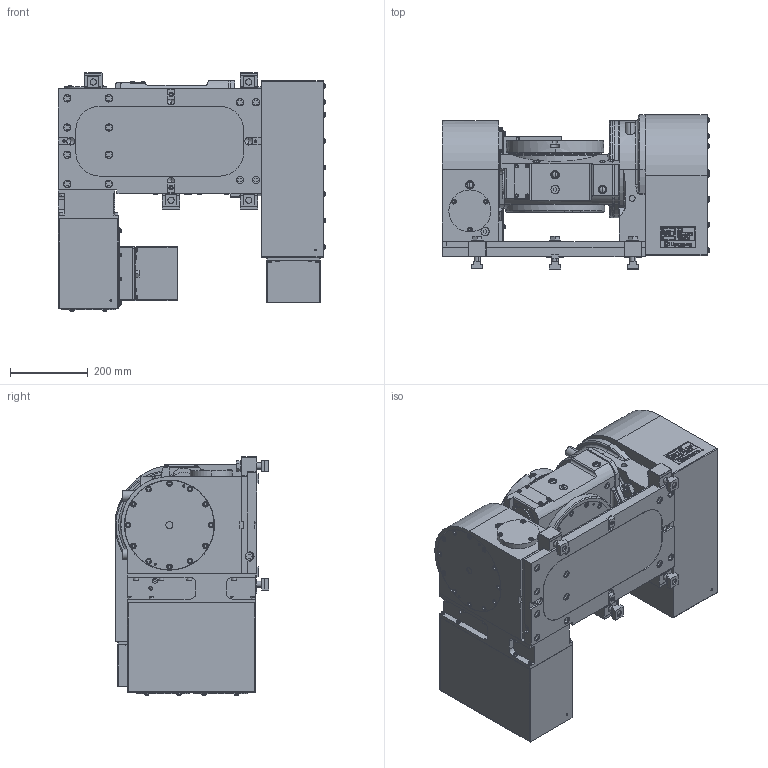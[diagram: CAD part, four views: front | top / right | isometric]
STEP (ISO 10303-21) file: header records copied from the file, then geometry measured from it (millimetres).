
FILE_DESCRIPTION (( 'STEP AP214' ), '1' );
FILE_NAME ('【掲載用】TT251付加軸.STEP', '2019-10-10T07:19:31', ( '' ), ( '' ), 'SwSTEP 2.0', 'SolidWorks 2017', '' );
FILE_SCHEMA (( 'AUTOMOTIVE_DESIGN' ));
Length unit declared in the file: millimetre
Products named in the file (22): コネクタプレート（61E4465853）TB200A4F24; コネクタプレート（61E4471133）MR200LAF04; スペーサ（61E4617440）MR200LAF43_穴無し; 僇僶乕丂俹(61E4458433)MR250RAM01; モータケース(61E2708001)TT251HFF32; モータケース(61E2606410)TT251HFF18; パッキングプレートPAD(61E4417971)TT251H00_回転モデル; ササエPAD(61E3557535)TT251H00_回転モデル; ケイシャモータクドウASSY(61E3590926)TT251H00_回転モデル; CLAMPING PARTS(61E4302260)TM250D; T僗儘僢僩僫僢僩俿俶俵侾俉侾俇; ケイシャホンタイASSY(61E2642532)TT251H01_回転モデル; B パーカ　M16×70; ワッシャ　１６; 【掲載用】TT251付加軸; クランプ（61E404734）; TABLE(61E8452140)TT251H01; BODY(61E1143053)TT251H01; BASE_TT251HFF; キタガワシール; KQ2E06-01; コネクタカバー（61E3639910）
Assembly tree (26 placements, depth 3):
  【掲載用】TT251付加軸
    BASE_TT251HFF
      ケイシャホンタイASSY(61E2642532)TT251H01_回転モデル
      ケイシャモータクドウASSY(61E3590926)TT251H00_回転モデル
      ササエPAD(61E3557535)TT251H00_回転モデル
      パッキングプレートPAD(61E4417971)TT251H00_回転モデル
      モータケース(61E2606410)TT251HFF18
      モータケース(61E2708001)TT251HFF32
      僇僶乕丂俹(61E4458433)MR250RAM01  x2
      スペーサ（61E4617440）MR200LAF43_穴無し
      コネクタプレート（61E4471133）MR200LAF04
      コネクタプレート（61E4465853）TB200A4F24
      コネクタカバー（61E3639910）  x2
      KQ2E06-01
      キタガワシール
    BODY(61E1143053)TT251H01
    TABLE(61E8452140)TT251H01
    CLAMPING PARTS(61E4302260)TM250D  x4
      クランプ（61E404734）
      ワッシャ　１６
      B パーカ　M16×70
      T僗儘僢僩僫僢僩俿俶俵侾俉侾俇
Bounding box: 687.8 x 396 x 613.7 mm (x, y, z)
Volume: 75397322.4 mm3; surface area: 3273528 mm2
Topology: 33 solids, 33 shells, 4580 faces, 11401 edges, 7395 vertices
Faces by surface type: plane 2993, cylinder 1101, cone 261, torus 197, sphere 15, bspline 13
Entity records: 151869 total; most frequent: CARTESIAN_POINT 24821, DIRECTION 21995, ORIENTED_EDGE 21608, EDGE_CURVE 10804, VECTOR 7961, LINE 7961, VERTEX_POINT 7041, AXIS2_PLACEMENT_3D 7017
